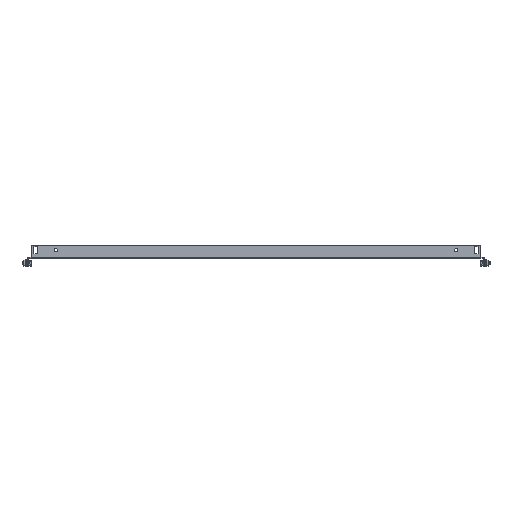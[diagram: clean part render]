
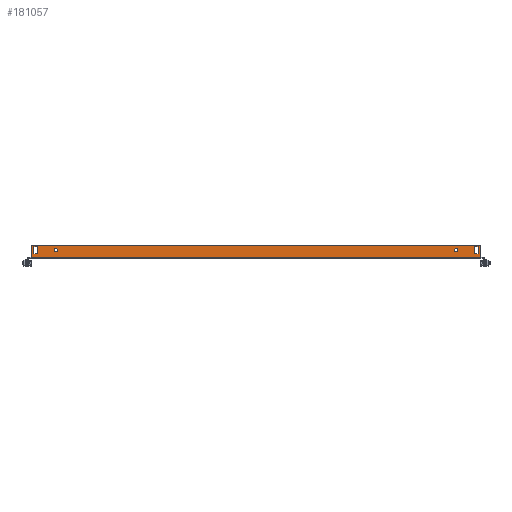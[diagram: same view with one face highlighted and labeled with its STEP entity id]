
A CAD part, front view. The second image highlights one B-rep face of the part: STEP entity #181057.
In plain terms, the highlighted planar face has unit normal (0, -1, 0).
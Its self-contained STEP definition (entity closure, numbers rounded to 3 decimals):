
#165350 = VERTEX_POINT('',#165351);
#165351 = CARTESIAN_POINT('',(442.,-384.5,0.));
#165357 = EDGE_CURVE('',#165358,#165350,#165360,.T.);
#165358 = VERTEX_POINT('',#165359);
#165359 = CARTESIAN_POINT('',(-442.,-384.5,0.));
#165360 = LINE('',#165361,#165362);
#165361 = CARTESIAN_POINT('',(-442.,-384.5,0.));
#165362 = VECTOR('',#165363,1.);
#165363 = DIRECTION('',(1.,-0.,-0.));
#180936 = VERTEX_POINT('',#180937);
#180937 = CARTESIAN_POINT('',(-442.,-384.5,2.6));
#180952 = EDGE_CURVE('',#180936,#165358,#180953,.T.);
#180953 = LINE('',#180954,#180955);
#180954 = CARTESIAN_POINT('',(-442.,-384.5,2.6));
#180955 = VECTOR('',#180956,1.);
#180956 = DIRECTION('',(0.,0.,-1.));
#180976 = VERTEX_POINT('',#180977);
#180977 = CARTESIAN_POINT('',(442.,-384.5,2.6));
#180983 = EDGE_CURVE('',#180976,#165350,#180984,.T.);
#180984 = LINE('',#180985,#180986);
#180985 = CARTESIAN_POINT('',(442.,-384.5,2.));
#180986 = VECTOR('',#180987,1.);
#180987 = DIRECTION('',(-0.,0.,-1.));
#181009 = VERTEX_POINT('',#181010);
#181010 = CARTESIAN_POINT('',(442.,-384.5,26.));
#181016 = EDGE_CURVE('',#180976,#181009,#181017,.T.);
#181017 = LINE('',#181018,#181019);
#181018 = CARTESIAN_POINT('',(442.,-384.5,26.));
#181019 = VECTOR('',#181020,1.);
#181020 = DIRECTION('',(-0.,0.,1.));
#181031 = EDGE_CURVE('',#181032,#180936,#181034,.T.);
#181032 = VERTEX_POINT('',#181033);
#181033 = CARTESIAN_POINT('',(-442.,-384.5,26.));
#181034 = LINE('',#181035,#181036);
#181035 = CARTESIAN_POINT('',(-442.,-384.5,2.));
#181036 = VECTOR('',#181037,1.);
#181037 = DIRECTION('',(-0.,0.,-1.));
#181057 = ADVANCED_FACE('',(#181058,#181092,#181103,#181114,#181148),
  #181161,.F.);
#181058 = FACE_BOUND('',#181059,.T.);
#181059 = EDGE_LOOP('',(#181060,#181070,#181078,#181086));
#181060 = ORIENTED_EDGE('',*,*,#181061,.F.);
#181061 = EDGE_CURVE('',#181062,#181064,#181066,.T.);
#181062 = VERTEX_POINT('',#181063);
#181063 = CARTESIAN_POINT('',(436.5,-384.5,9.));
#181064 = VERTEX_POINT('',#181065);
#181065 = CARTESIAN_POINT('',(436.5,-384.5,23.));
#181066 = LINE('',#181067,#181068);
#181067 = CARTESIAN_POINT('',(436.5,-384.5,23.));
#181068 = VECTOR('',#181069,1.);
#181069 = DIRECTION('',(-0.,-0.,1.));
#181070 = ORIENTED_EDGE('',*,*,#181071,.F.);
#181071 = EDGE_CURVE('',#181072,#181062,#181074,.T.);
#181072 = VERTEX_POINT('',#181073);
#181073 = CARTESIAN_POINT('',(429.5,-384.5,9.));
#181074 = LINE('',#181075,#181076);
#181075 = CARTESIAN_POINT('',(436.5,-384.5,9.));
#181076 = VECTOR('',#181077,1.);
#181077 = DIRECTION('',(1.,-0.,-0.));
#181078 = ORIENTED_EDGE('',*,*,#181079,.F.);
#181079 = EDGE_CURVE('',#181080,#181072,#181082,.T.);
#181080 = VERTEX_POINT('',#181081);
#181081 = CARTESIAN_POINT('',(429.5,-384.5,23.));
#181082 = LINE('',#181083,#181084);
#181083 = CARTESIAN_POINT('',(429.5,-384.5,9.));
#181084 = VECTOR('',#181085,1.);
#181085 = DIRECTION('',(0.,-0.,-1.));
#181086 = ORIENTED_EDGE('',*,*,#181087,.F.);
#181087 = EDGE_CURVE('',#181064,#181080,#181088,.T.);
#181088 = LINE('',#181089,#181090);
#181089 = CARTESIAN_POINT('',(429.5,-384.5,23.));
#181090 = VECTOR('',#181091,1.);
#181091 = DIRECTION('',(-1.,-0.,-0.));
#181092 = FACE_BOUND('',#181093,.T.);
#181093 = EDGE_LOOP('',(#181094));
#181094 = ORIENTED_EDGE('',*,*,#181095,.F.);
#181095 = EDGE_CURVE('',#181096,#181096,#181098,.T.);
#181096 = VERTEX_POINT('',#181097);
#181097 = CARTESIAN_POINT('',(393.5,-384.5,19.5));
#181098 = CIRCLE('',#181099,3.5);
#181099 = AXIS2_PLACEMENT_3D('',#181100,#181101,#181102);
#181100 = CARTESIAN_POINT('',(393.5,-384.5,16.));
#181101 = DIRECTION('',(0.,-1.,0.));
#181102 = DIRECTION('',(0.,0.,1.));
#181103 = FACE_BOUND('',#181104,.T.);
#181104 = EDGE_LOOP('',(#181105));
#181105 = ORIENTED_EDGE('',*,*,#181106,.F.);
#181106 = EDGE_CURVE('',#181107,#181107,#181109,.T.);
#181107 = VERTEX_POINT('',#181108);
#181108 = CARTESIAN_POINT('',(-393.5,-384.5,12.5));
#181109 = CIRCLE('',#181110,3.5);
#181110 = AXIS2_PLACEMENT_3D('',#181111,#181112,#181113);
#181111 = CARTESIAN_POINT('',(-393.5,-384.5,16.));
#181112 = DIRECTION('',(0.,-1.,0.));
#181113 = DIRECTION('',(0.,0.,-1.));
#181114 = FACE_BOUND('',#181115,.T.);
#181115 = EDGE_LOOP('',(#181116,#181126,#181134,#181142));
#181116 = ORIENTED_EDGE('',*,*,#181117,.F.);
#181117 = EDGE_CURVE('',#181118,#181120,#181122,.T.);
#181118 = VERTEX_POINT('',#181119);
#181119 = CARTESIAN_POINT('',(-436.5,-384.5,23.));
#181120 = VERTEX_POINT('',#181121);
#181121 = CARTESIAN_POINT('',(-436.5,-384.5,9.));
#181122 = LINE('',#181123,#181124);
#181123 = CARTESIAN_POINT('',(-436.5,-384.5,9.));
#181124 = VECTOR('',#181125,1.);
#181125 = DIRECTION('',(-0.,-0.,-1.));
#181126 = ORIENTED_EDGE('',*,*,#181127,.F.);
#181127 = EDGE_CURVE('',#181128,#181118,#181130,.T.);
#181128 = VERTEX_POINT('',#181129);
#181129 = CARTESIAN_POINT('',(-429.5,-384.5,23.));
#181130 = LINE('',#181131,#181132);
#181131 = CARTESIAN_POINT('',(-436.5,-384.5,23.));
#181132 = VECTOR('',#181133,1.);
#181133 = DIRECTION('',(-1.,-0.,-0.));
#181134 = ORIENTED_EDGE('',*,*,#181135,.F.);
#181135 = EDGE_CURVE('',#181136,#181128,#181138,.T.);
#181136 = VERTEX_POINT('',#181137);
#181137 = CARTESIAN_POINT('',(-429.5,-384.5,9.));
#181138 = LINE('',#181139,#181140);
#181139 = CARTESIAN_POINT('',(-429.5,-384.5,23.));
#181140 = VECTOR('',#181141,1.);
#181141 = DIRECTION('',(-0.,-0.,1.));
#181142 = ORIENTED_EDGE('',*,*,#181143,.F.);
#181143 = EDGE_CURVE('',#181120,#181136,#181144,.T.);
#181144 = LINE('',#181145,#181146);
#181145 = CARTESIAN_POINT('',(-429.5,-384.5,9.));
#181146 = VECTOR('',#181147,1.);
#181147 = DIRECTION('',(1.,-0.,-0.));
#181148 = FACE_BOUND('',#181149,.T.);
#181149 = EDGE_LOOP('',(#181150,#181151,#181152,#181153,#181154,#181155)
  );
#181150 = ORIENTED_EDGE('',*,*,#181031,.T.);
#181151 = ORIENTED_EDGE('',*,*,#180952,.T.);
#181152 = ORIENTED_EDGE('',*,*,#165357,.T.);
#181153 = ORIENTED_EDGE('',*,*,#180983,.F.);
#181154 = ORIENTED_EDGE('',*,*,#181016,.T.);
#181155 = ORIENTED_EDGE('',*,*,#181156,.T.);
#181156 = EDGE_CURVE('',#181009,#181032,#181157,.T.);
#181157 = LINE('',#181158,#181159);
#181158 = CARTESIAN_POINT('',(-442.,-384.5,26.));
#181159 = VECTOR('',#181160,1.);
#181160 = DIRECTION('',(-1.,-0.,-0.));
#181161 = PLANE('',#181162);
#181162 = AXIS2_PLACEMENT_3D('',#181163,#181164,#181165);
#181163 = CARTESIAN_POINT('',(442.,-384.5,2.));
#181164 = DIRECTION('',(-0.,1.,0.));
#181165 = DIRECTION('',(0.,0.,1.));
